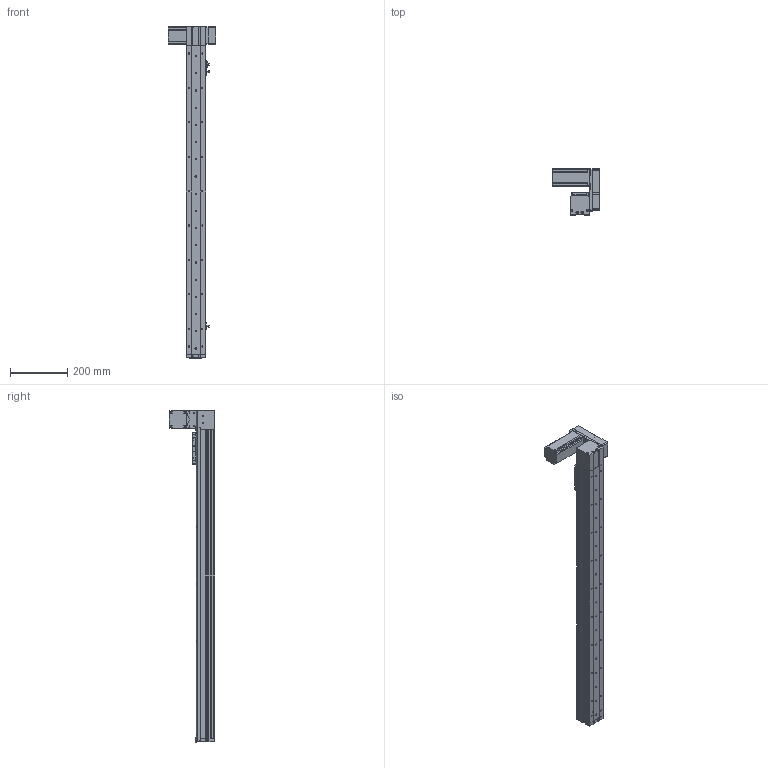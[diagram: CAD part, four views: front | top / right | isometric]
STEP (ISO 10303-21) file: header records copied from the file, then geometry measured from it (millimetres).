
FILE_DESCRIPTION (( 'STEP AP214' ), '1' );
FILE_NAME ('KSD68BS-S900-MLU-CR.STEP', '2019-08-27T08:13:23', ( '微软用户' ), ( '微软中国' ), 'SwSTEP 2.0', 'SolidWorks 2014', '' );
FILE_SCHEMA (( 'AUTOMOTIVE_DESIGN' ));
Length unit declared in the file: millimetre
Products named in the file (14): 68宽马达安装板连板上折同步带; KSD68BS 900行程盖板全封闭; 感应片68宽全封闭; U倰嫖萇EEㄜSX672; 台达ECMA－C20604AS伺服电机（400W); KSD68BS 900行程底板全封闭; KSD68BS-S900-MLU-CR; 68宽单导轨全封闭丝杆传动安装板1防护罩; KSD68BS 900行程侧板全封闭; 68宽单导轨全封闭同步带端板; 68遵裔啣揤啣1; 68单导轨全封闭同步带电机座左; 68单导轨全封闭同步带安装板; 悵誘欶奻狟殏
Assembly tree (17 placements, depth 2):
  KSD68BS-S900-MLU-CR
    KSD68BS 900行程底板全封闭
    台达ECMA－C20604AS伺服电机（400W)
    U倰嫖萇EEㄜSX672  x3
    感应片68宽全封闭
    68宽马达安装板连板上折同步带
    悵誘欶奻狟殏
    68单导轨全封闭同步带安装板
    68单导轨全封闭同步带电机座左
    68宽单导轨全封闭同步带端板
    KSD68BS 900行程侧板全封闭  x2
    68宽单导轨全封闭丝杆传动安装板1防护罩
    68遵裔啣揤啣1  x2
    KSD68BS 900行程盖板全封闭
Bounding box: 167.2 x 159.5 x 1158.1 mm (x, y, z)
Volume: 2401844 mm3; surface area: 908264.5 mm2
Topology: 18 solids, 18 shells, 1485 faces, 4227 edges, 2706 vertices
Faces by surface type: cylinder 700, plane 625, cone 160
Entity records: 47227 total; most frequent: CARTESIAN_POINT 8115, DIRECTION 7080, ORIENTED_EDGE 6782, EDGE_CURVE 3391, AXIS2_PLACEMENT_3D 2551, VERTEX_POINT 2224, VECTOR 1978, LINE 1978
